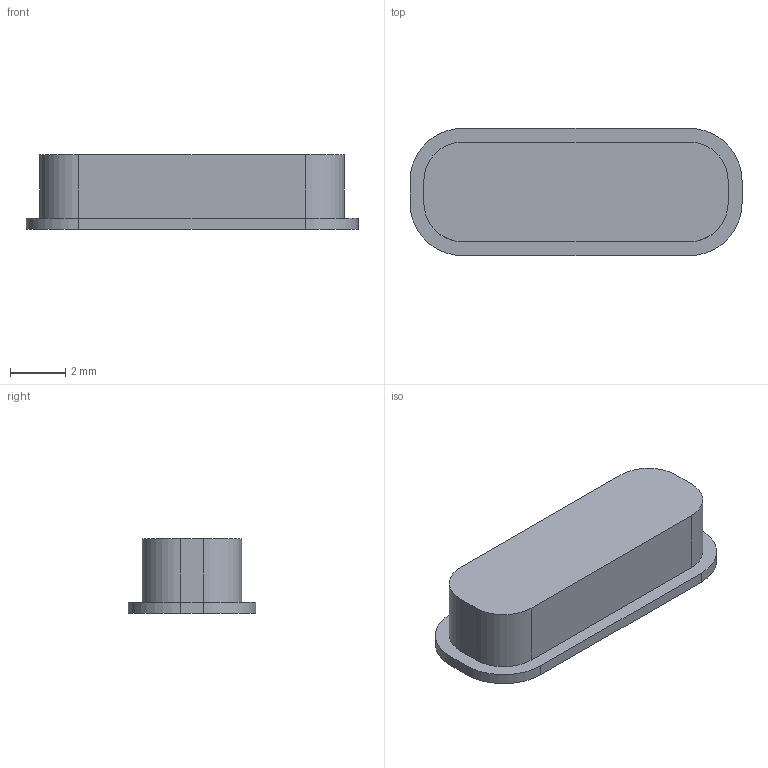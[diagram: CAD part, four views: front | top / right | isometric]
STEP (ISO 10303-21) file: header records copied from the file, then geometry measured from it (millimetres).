
FILE_DESCRIPTION(('Open CASCADE Model'),'2;1');
FILE_NAME('Affinity diffuser 4','2026-11-11T17:10:57',('Author'),( 'Open CASCADE'),'Open CASCADE STEP processor 7.8','build123d', 'Unknown');
FILE_SCHEMA(('AUTOMOTIVE_DESIGN { 1 0 10303 214 1 1 1 1 }'));
Length unit declared in the file: millimetre
Products named in the file (1): Affinity diffuser 4
Bounding box: 12 x 4.6 x 2.7 mm (x, y, z)
Volume: 108.1 mm3; surface area: 177.8 mm2
Topology: 1 solids, 1 shells, 19 faces, 48 edges, 32 vertices
Faces by surface type: plane 11, cylinder 8
Entity records: 1223 total; most frequent: DIRECTION 200, CARTESIAN_POINT 196, LINE 112, VECTOR 112, ORIENTED_EDGE 96, PCURVE 96, DEFINITIONAL_REPRESENTATION 96, EDGE_CURVE 48
